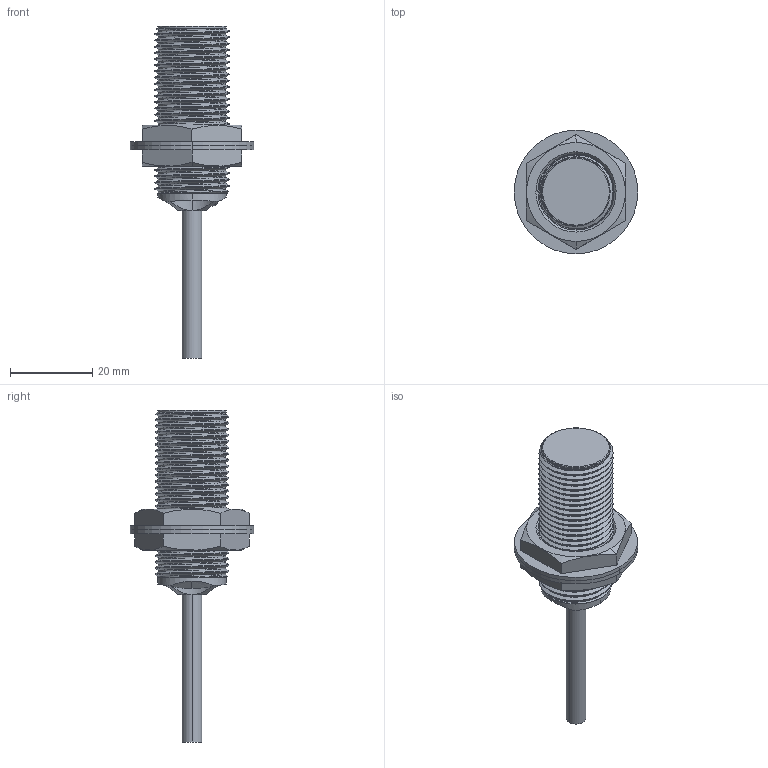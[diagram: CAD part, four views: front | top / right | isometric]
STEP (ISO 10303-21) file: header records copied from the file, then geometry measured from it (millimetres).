
FILE_DESCRIPTION (( 'STEP AP214' ), '1' );
FILE_NAME ('FN18-B.STEP', '2025-09-11T10:18:04', ( 'Windows User' ), ( 'P R C' ), 'SwSTEP 2.0', 'SolidWorks 2023', '' );
FILE_SCHEMA (( 'AUTOMOTIVE_DESIGN' ));
Length unit declared in the file: millimetre
Products named in the file (7): 零件2; LED; FN18-B; M18垫片; SN18-TURCK____.STEP; M18螺母; K40壳体
Assembly tree (8 placements, depth 2):
  FN18-B
    SN18-TURCK____.STEP
    LED
    M18垫片  x2
    M18螺母  x2
    K40壳体
    零件2
Bounding box: 30 x 30 x 80.6 mm (x, y, z)
Volume: 13190.7 mm3; surface area: 9819.4 mm2
Topology: 8 solids, 8 shells, 178 faces, 455 edges, 296 vertices
Faces by surface type: cylinder 106, plane 37, cone 20, bspline 11, sphere 2, torus 2
Entity records: 12340 total; most frequent: CARTESIAN_POINT 9026, ORIENTED_EDGE 740, DIRECTION 549, EDGE_CURVE 370, VERTEX_POINT 241, AXIS2_PLACEMENT_3D 218, EDGE_LOOP 157, FACE_OUTER_BOUND 145
